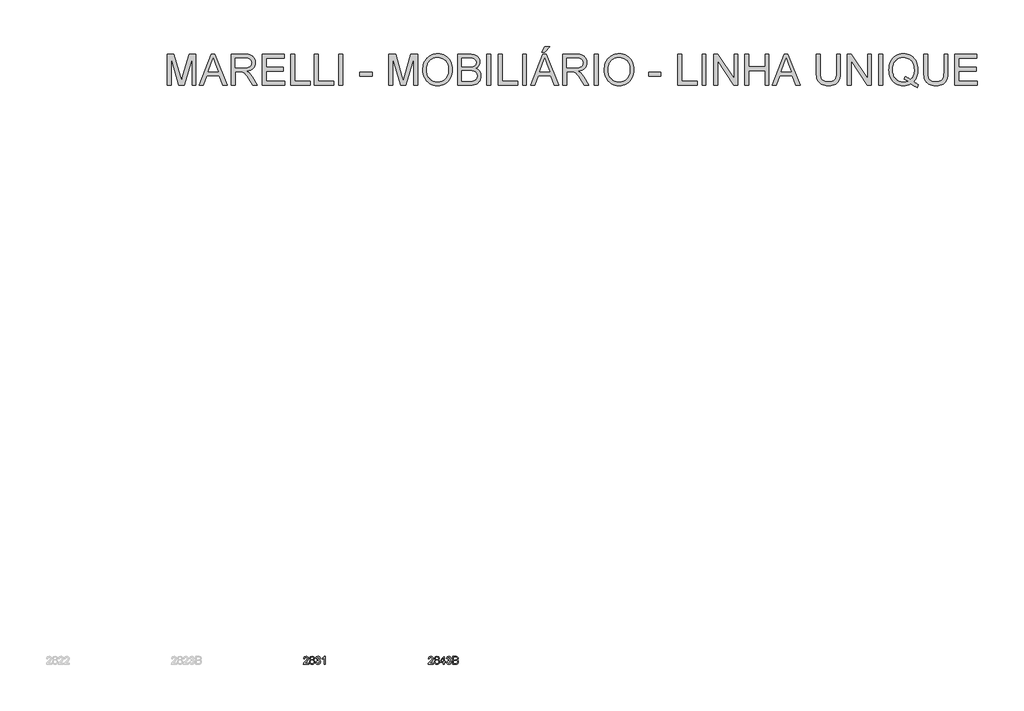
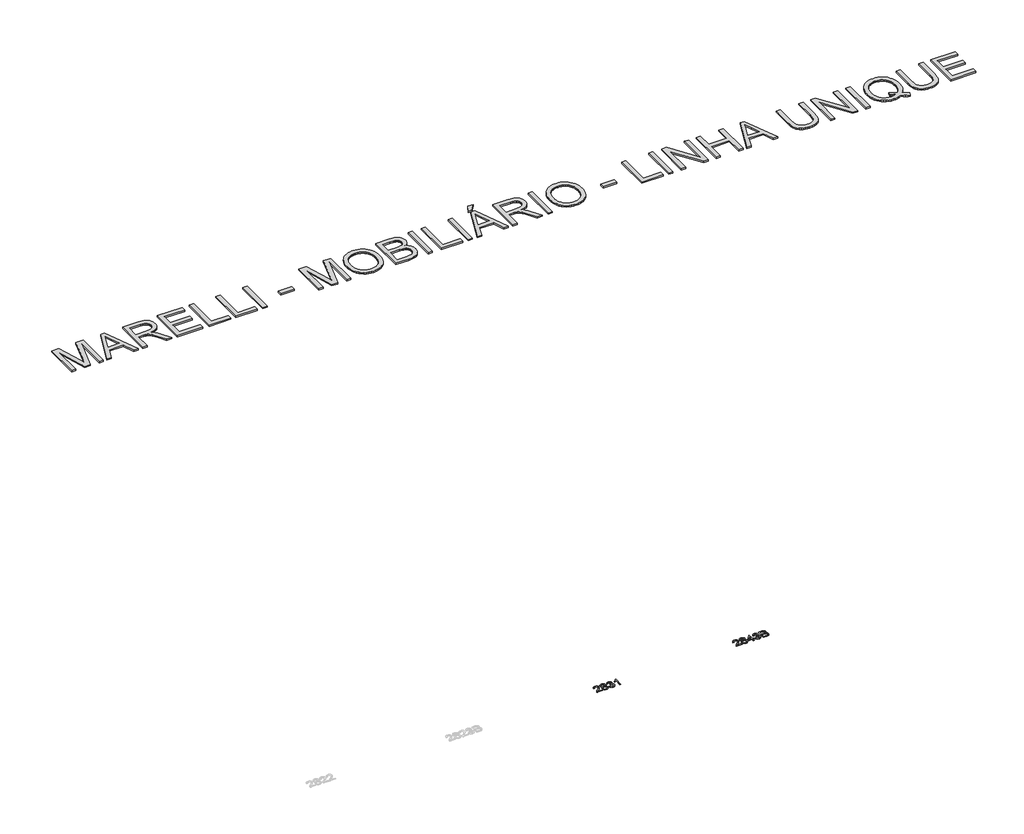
# One storey, part 4 of 4: 3 proxies.
"""IFC4 building model written with IfcOpenShell, lengths in millimetres."""

from ifc_helpers import new_model, si_unit, origin, origin_with_axes, place, context, project, spatial, polyline, outline, extrude, element, save

model = new_model("IFC4")

# Units and contexts
model_context = context("Model", 3, world=origin())
ifc_project = project(units=[si_unit("LENGTHUNIT", "METRE", prefix="MILLI")], contexts=[model_context])

# Site, building, storey
site = spatial("IfcSite", under=ifc_project)
building = spatial("IfcBuilding", under=site)
storey = spatial("IfcBuildingStorey", under=building, Name="Marelli - Linha UNIQUE - Planta Baixa", Elevation=0.0)

# Proxies
placement = place(None, origin())
element("IfcBuildingElementProxy", 1, Name="1200mm Arial", ObjectType="1200mm Arial", at=placement, inside=storey, context=model_context, shape_type="SweptSolid", body=[
    extrude(outline(polyline([(7655.3865986, 28269.4336799), (7655.3865986, 29474.9094017), (7914.6698288, 29474.9094017), (8161.2979184, 28625.2491457), (8211.0355642, 28447.7828712), (8264.8934883, 28639.9644255), (8507.4012995, 29474.9094017), (8766.6845297, 29474.9094017), (8766.6845297, 28269.4336799), (8616.0000645, 28269.4336799), (8616.0000645, 29324.2249365), (8313.159606, 28269.4336799), (8108.9115223, 28269.4336799), (7806.0710639, 29324.2249365), (7806.0710639, 28269.4336799), (7655.3865986, 28269.4336799)])), origin_with_axes(), (0.0, 0.0, 1.0), 50.0),
    extrude(outline(polyline([(8889.9985745, 28269.4336799), (9371.1882241, 29474.9094017), (9499.5054641, 29474.9094017), (9980.6951138, 28269.4336799), (9821.4757862, 28269.4336799), (9683.4464617, 28646.144843), (9186.952921, 28646.144843), (9049.217902, 28269.4336799), (8889.9985745, 28269.4336799)]), holes=[polyline([(9242.282373, 28796.8293082), (9628.4113152, 28796.8293082), (9519.8125502, 29093.1950435), (9435.3468441, 29324.2249365), (9360.2989171, 29119.093936), (9242.282373, 28796.8293082)])]), origin_with_axes(), (0.0, 0.0, 1.0), 50.0),
    extrude(outline(polyline([(10141.6802748, 28269.4336799), (10141.6802748, 29474.9094017), (10661.129652, 29474.9094017), (10735.6901354, 29472.8768537), (10800.7408692, 29466.7792096), (10856.2818534, 29456.6164695), (10902.3130881, 29442.3886334), (10941.5109147, 29423.0012522), (10976.5516747, 29397.3598771), (11007.4353682, 29365.4645082), (11034.1619951, 29327.3151453), (11055.7290771, 29284.9627306), (11071.1341357, 29240.4582062), (11080.3771708, 29193.8015722), (11083.4581825, 29144.9928285), (11078.3538198, 29083.0782887), (11063.0407318, 29026.2405204), (11037.5189184, 28974.4795237), (11001.7883796, 28927.7952985), (10979.979875, 28906.7294558), (10955.3892629, 28887.6777669), (10897.8617159, 28855.616851), (10829.2057386, 28831.6125509), (10749.4213309, 28815.6648664), (10799.0854002, 28783.2176744), (10835.0642594, 28751.2119408), (10896.7948581, 28678.0034238), (10957.2010818, 28596.1128916), (11158.2118039, 28269.4336799), (10983.0999742, 28269.4336799), (10826.2350915, 28519.2991311), (10763.4744231, 28614.6541442), (10712.927437, 28684.6988761), (10670.8049485, 28732.9282057), (10633.3177732, 28762.8370119), (10597.8171607, 28780.384983), (10561.6543605, 28791.5318075), (10526.4112654, 28795.504933), (10474.2455985, 28796.8293082), (10292.3647401, 28796.8293082), (10292.3647401, 28269.4336799), (10141.6802748, 28269.4336799)]), holes=[polyline([(10292.3647401, 28947.5137734), (10629.6389533, 28947.5137734), (10726.5022826, 28952.8480624), (10766.7945581, 28959.5159235), (10801.6605742, 28968.8509292), (10831.8820801, 28981.1197937), (10858.2408251, 28996.5892316), (10880.7368091, 29015.2592429), (10899.3700321, 29037.1298275), (10913.9841444, 29061.1249306), (10924.422796, 29086.1684974), (10930.685987, 29112.2605279), (10932.7737173, 29139.4010221), (10928.7913947, 29177.9366611), (10916.8444269, 29212.9038448), (10896.9328139, 29244.3025731), (10869.0565557, 29272.132846), (10832.5718588, 29294.9231356), (10786.8349298, 29311.2019139), (10731.8457686, 29320.9691808), (10667.6043752, 29324.2249365), (10292.3647401, 29324.2249365), (10292.3647401, 28947.5137734)])]), origin_with_axes(), (0.0, 0.0, 1.0), 50.0),
    extrude(outline(polyline([(11347.1559966, 28269.4336799), (11347.1559966, 29474.9094017), (12213.5916717, 29474.9094017), (12213.5916717, 29324.2249365), (11497.8404619, 29324.2249365), (11497.8404619, 28966.3493316), (12175.9205554, 28966.3493316), (12175.9205554, 28815.6648664), (11497.8404619, 28815.6648664), (11497.8404619, 28420.1181452), (12232.4272298, 28420.1181452), (12232.4272298, 28269.4336799), (11347.1559966, 28269.4336799)])), origin_with_axes(), (0.0, 0.0, 1.0), 50.0),
    extrude(outline(polyline([(12458.4539277, 28269.4336799), (12458.4539277, 29474.9094017), (12609.1383929, 29474.9094017), (12609.1383929, 28420.1181452), (13211.8762538, 28420.1181452), (13211.8762538, 28269.4336799), (12458.4539277, 28269.4336799)])), origin_with_axes(), (0.0, 0.0, 1.0), 50.0),
    extrude(outline(polyline([(13381.3962772, 28269.4336799), (13381.3962772, 29474.9094017), (13532.0807424, 29474.9094017), (13532.0807424, 28420.1181452), (14134.8186033, 28420.1181452), (14134.8186033, 28269.4336799), (13381.3962772, 28269.4336799)])), origin_with_axes(), (0.0, 0.0, 1.0), 50.0),
    extrude(outline(polyline([(14323.1741848, 28269.4336799), (14323.1741848, 29474.9094017), (14473.8586501, 29474.9094017), (14473.8586501, 28269.4336799), (14323.1741848, 28269.4336799)])), origin_with_axes(), (0.0, 0.0, 1.0), 50.0),
    extrude(outline(polyline([(15151.9387436, 28627.3092848), (15151.9387436, 28777.9937501), (15622.8276974, 28777.9937501), (15622.8276974, 28627.3092848), (15151.9387436, 28627.3092848)])), origin_with_axes(), (0.0, 0.0, 1.0), 50.0),
    extrude(outline(polyline([(16282.0722327, 28269.4336799), (16282.0722327, 29474.9094017), (16541.3554629, 29474.9094017), (16787.9835525, 28625.2491457), (16837.7211983, 28447.7828712), (16891.5791224, 28639.9644255), (17134.0869336, 29474.9094017), (17393.3701638, 29474.9094017), (17393.3701638, 28269.4336799), (17242.6856985, 28269.4336799), (17242.6856985, 29324.2249365), (16939.8452401, 28269.4336799), (16735.5971564, 28269.4336799), (16432.756698, 29324.2249365), (16432.756698, 28269.4336799), (16282.0722327, 28269.4336799)])), origin_with_axes(), (0.0, 0.0, 1.0), 50.0),
    extrude(outline(polyline([(17600.5613035, 28856.2790386), (17603.0720981, 28929.0047106), (17610.6044819, 28997.6744835), (17623.158455, 29062.2883574), (17640.7340173, 29122.8463323), (17663.3311689, 29179.3484083), (17690.9499097, 29231.7945852), (17723.5902397, 29280.1848632), (17761.2521589, 29324.5192421), (17802.8826052, 29364.1815197), (17847.4285163, 29398.5554936), (17894.8898922, 29427.6411639), (17945.2667329, 29451.4385304), (17998.5590385, 29469.9475933), (18054.7668088, 29483.1683525), (18113.890044, 29491.100808), (18175.9287439, 29493.7449599), (18257.0283297, 29488.7785529), (18334.0444254, 29473.8793321), (18406.977031, 29449.0472975), (18475.8261464, 29414.2824489), (18538.6603912, 29370.6332502), (18593.5483848, 29319.148165), (18640.4901274, 29259.8271932), (18679.4856189, 29192.670335), (18710.1301891, 29119.2043006), (18732.0191678, 29040.9558002), (18745.1525551, 28957.9248339), (18749.5303508, 28870.1114017), (18744.9226288, 28781.1391411), (18731.0994628, 28696.9861347), (18708.0608529, 28617.6523825), (18675.806799, 28543.1378843), (18635.1006562, 28475.410809), (18586.7057797, 28416.4393252), (18530.6221696, 28366.2234329), (18466.8498257, 28324.763132), (18397.8995428, 28292.31594), (18326.2821153, 28269.1393743), (18251.9975435, 28255.2334349), (18175.0458271, 28250.5981218), (18092.5298956, 28255.7208786), (18014.5021244, 28271.0891489), (17940.9625136, 28296.7029328), (17871.9110631, 28332.5622303), (17809.1503947, 28377.2782868), (17754.4831302, 28429.4623478), (17707.9092696, 28489.1144134), (17669.428813, 28556.2344834), (17639.2992775, 28628.1278223), (17617.7781808, 28702.0996945), (17604.8655228, 28778.1500999), (17600.5613035, 28856.2790386)]), holes=[polyline([(17751.2457687, 28854.8075107), (17753.1288646, 28803.4557827), (17758.7781525, 28754.9091549), (17768.1936323, 28709.1676273), (17781.3753041, 28666.2311999), (17798.3231678, 28626.0998728), (17819.0372233, 28588.7736458), (17843.5174709, 28554.2525191), (17871.7639103, 28522.5364926), (17902.8522382, 28494.1176085), (17935.8581509, 28469.4879089), (17970.7816486, 28448.6473939), (18007.6227311, 28431.5960634), (18046.3813986, 28418.3339175), (18087.0576509, 28408.8609561), (18129.6514882, 28403.1771793), (18174.1629103, 28401.282587), (18219.4882714, 28403.1955734), (18262.7580918, 28408.9345325), (18303.9723716, 28418.4994644), (18343.1311107, 28431.890369), (18380.2343092, 28449.1072464), (18415.281967, 28470.1500965), (18448.2740842, 28495.0189194), (18479.2106607, 28523.713715), (18507.2501666, 28555.9263822), (18531.5510716, 28591.3488198), (18552.1133759, 28629.9810278), (18568.9370794, 28671.8230063), (18582.0221821, 28716.8747551), (18591.368684, 28765.1362743), (18596.9765852, 28816.607564), (18598.8458856, 28871.288624), (18595.6453122, 28940.248104), (18586.0435921, 29004.6826355), (18570.0407253, 29064.5922184), (18547.6367118, 29119.9768528), (18519.079872, 29170.1099717), (18484.6185261, 29214.2650081), (18444.2526741, 29252.4419622), (18397.9823162, 29284.6408338), (18347.242192, 29310.1994354), (18293.4670414, 29328.4555794), (18236.6568643, 29339.4092659), (18176.8116607, 29343.0604947), (18134.0131891, 29341.3015589), (18092.7322307, 29336.0247515), (18052.9687856, 29327.2300726), (18014.7228536, 29314.917522), (17977.9944349, 29299.0870999), (17942.7835295, 29279.7388062), (17909.0901372, 29256.872641), (17876.9142582, 29230.4886041), (17847.460706, 29199.993486), (17821.9342941, 29164.7940768), (17800.3350224, 29124.8903767), (17782.6628911, 29080.2823855), (17768.9179, 29030.9701033), (17759.1000493, 28976.9535301), (17753.2093388, 28918.2326659), (17751.2457687, 28854.8075107)])]), origin_with_axes(), (0.0, 0.0, 1.0), 50.0),
    extrude(outline(polyline([(18956.7214905, 28269.4336799), (18956.7214905, 29474.9094017), (19416.7211372, 29474.9094017), (19483.4457341, 29472.6929127), (19543.2357554, 29466.0434456), (19596.091201, 29454.9610005), (19642.0120711, 29439.4455774), (19682.1663909, 29419.3316293), (19717.7221857, 29394.4536094), (19748.6794556, 29364.8115176), (19775.0382005, 29330.405354), (19796.0902477, 29293.1756961), (19811.1274243, 29255.0631214), (19820.1497302, 29216.0676299), (19823.1571655, 29176.1892216), (19820.6279768, 29139.3550369), (19813.0404106, 29103.606104), (19800.3944671, 29068.942423), (19782.690146, 29035.3639939), (19759.8722653, 29003.9192804), (19731.8856425, 28975.6567461), (19698.7302777, 28950.5763911), (19660.4061709, 28928.6782153), (19705.8855825, 28909.2908341), (19745.7915819, 28884.0909175), (19780.1241691, 28853.0784653), (19808.8833441, 28816.2534776), (19831.6092544, 28774.7379944), (19847.8420474, 28729.6540559), (19857.5817232, 28681.001662), (19860.8282818, 28628.7808128), (19858.6117928, 28585.9869397), (19851.9623257, 28544.7197769), (19840.8798806, 28504.9793244), (19825.3644575, 28466.7655821), (19806.5748846, 28431.4673047), (19785.6699902, 28400.4732466), (19762.6497744, 28373.7834079), (19737.514237, 28351.3977885), (19709.6747671, 28332.3966834), (19678.5427532, 28315.8603877), (19644.1181955, 28301.7889014), (19606.401094, 28290.1822245), (19564.8028374, 28281.1047362), (19518.7348145, 28274.6208161), (19413.1894701, 28269.4336799), (18956.7214905, 28269.4336799)]), holes=[polyline([(19107.4059557, 28985.1848897), (19382.5816881, 28985.1848897), (19478.819618, 28988.4222513), (19543.2725436, 28998.134336), (19573.3744878, 29007.9108), (19599.5217006, 29020.4647731), (19621.714182, 29035.7962552), (19639.9519319, 29053.9052464), (19654.1797681, 29074.662988), (19664.3425082, 29097.9407213), (19670.4401523, 29123.7384462), (19672.4727003, 29152.0561628), (19670.578108, 29179.1690658), (19664.8943312, 29204.5897117), (19655.4213698, 29228.3181004), (19642.1592239, 29250.3542319), (19625.3654108, 29269.8795688), (19605.297448, 29286.0755736), (19581.9553354, 29298.9422464), (19555.339073, 29308.4795871), (19522.0457525, 29315.3681775), (19478.6724652, 29320.2885992), (19361.6859908, 29324.2249365), (19107.4059557, 29324.2249365), (19107.4059557, 28985.1848897)]), polyline([(19107.4059557, 28420.1181452), (19416.4268316, 28420.1181452), (19484.1171188, 28421.5896731), (19528.2629582, 28426.0042571), (19580.1711077, 28439.0640679), (19622.8822073, 28458.819331), (19657.6102677, 28487.1094565), (19685.5692993, 28525.7738542), (19696.3206506, 28548.5641438), (19704.0001873, 28573.0834788), (19708.6079093, 28599.3318591), (19710.1438166, 28627.3092848), (19708.3411948, 28659.9036296), (19702.9333295, 28690.2906824), (19693.9202206, 28718.4704432), (19681.3018682, 28744.4429121), (19664.6460108, 28767.463128), (19643.5203873, 28786.7861297), (19617.9249975, 28802.4119175), (19587.8598414, 28814.3404912), (19552.0005439, 28823.160462), (19509.0227298, 28829.4604412), (19401.7115518, 28834.5004245), (19107.4059557, 28834.5004245), (19107.4059557, 28420.1181452)])]), origin_with_axes(), (0.0, 0.0, 1.0), 50.0),
    extrude(outline(polyline([(20086.8549797, 28269.4336799), (20086.8549797, 29474.9094017), (20237.5394449, 29474.9094017), (20237.5394449, 28269.4336799), (20086.8549797, 28269.4336799)])), origin_with_axes(), (0.0, 0.0, 1.0), 50.0),
    extrude(outline(polyline([(20538.9083753, 28269.4336799), (20538.9083753, 29474.9094017), (20689.5928406, 29474.9094017), (20689.5928406, 28420.1181452), (21292.3307015, 28420.1181452), (21292.3307015, 28269.4336799), (20538.9083753, 28269.4336799)])), origin_with_axes(), (0.0, 0.0, 1.0), 50.0),
    extrude(outline(polyline([(21480.686283, 28269.4336799), (21480.686283, 29474.9094017), (21631.3707482, 29474.9094017), (21631.3707482, 28269.4336799), (21480.686283, 28269.4336799)])), origin_with_axes(), (0.0, 0.0, 1.0), 50.0),
    extrude(outline(polyline([(21792.3559093, 28269.4336799), (22273.545559, 29474.9094017), (22401.8627989, 29474.9094017), (22883.0524486, 28269.4336799), (22723.8331211, 28269.4336799), (22585.8037965, 28646.144843), (22089.3102558, 28646.144843), (21951.5752368, 28269.4336799), (21792.3559093, 28269.4336799)]), holes=[polyline([(22144.6397079, 28796.8293082), (22530.76865, 28796.8293082), (22422.169885, 29093.1950435), (22337.7041789, 29324.2249365), (22262.6562519, 29119.093936), (22144.6397079, 28796.8293082)])]), origin_with_axes(), (0.0, 0.0, 1.0), 50.0),
    extrude(outline(polyline([(22234.1086091, 29550.2516343), (22347.121958, 29776.2783322), (22535.4775396, 29776.2783322), (22347.121958, 29550.2516343), (22234.1086091, 29550.2516343)])), origin_with_axes(), (0.0, 0.0, 1.0), 50.0),
    extrude(outline(polyline([(23044.0376097, 28269.4336799), (23044.0376097, 29474.9094017), (23563.4869869, 29474.9094017), (23638.0474703, 29472.8768537), (23703.098204, 29466.7792096), (23758.6391883, 29456.6164695), (23804.6704229, 29442.3886334), (23843.8682495, 29423.0012522), (23878.9090095, 29397.3598771), (23909.792703, 29365.4645082), (23936.51933, 29327.3151453), (23958.086412, 29284.9627306), (23973.4914705, 29240.4582062), (23982.7345056, 29193.8015722), (23985.8155173, 29144.9928285), (23980.7111547, 29083.0782887), (23965.3980666, 29026.2405204), (23939.8762532, 28974.4795237), (23904.1457144, 28927.7952985), (23882.3372099, 28906.7294558), (23857.7465978, 28887.6777669), (23800.2190508, 28855.616851), (23731.5630734, 28831.6125509), (23651.7786657, 28815.6648664), (23701.4427351, 28783.2176744), (23737.4215942, 28751.2119408), (23799.152193, 28678.0034238), (23859.5584166, 28596.1128916), (24060.5691388, 28269.4336799), (23885.4573091, 28269.4336799), (23728.5924263, 28519.2991311), (23665.8317579, 28614.6541442), (23615.2847718, 28684.6988761), (23573.1622834, 28732.9282057), (23535.675108, 28762.8370119), (23500.1744955, 28780.384983), (23464.0116954, 28791.5318075), (23428.7686002, 28795.504933), (23376.6029333, 28796.8293082), (23194.7220749, 28796.8293082), (23194.7220749, 28269.4336799), (23044.0376097, 28269.4336799)]), holes=[polyline([(23194.7220749, 28947.5137734), (23531.9962881, 28947.5137734), (23628.8596174, 28952.8480624), (23669.1518929, 28959.5159235), (23704.017909, 28968.8509292), (23734.2394149, 28981.1197937), (23760.5981599, 28996.5892316), (23783.0941439, 29015.2592429), (23801.727367, 29037.1298275), (23816.3414792, 29061.1249306), (23826.7801308, 29086.1684974), (23833.0433218, 29112.2605279), (23835.1310521, 29139.4010221), (23831.1487295, 29177.9366611), (23819.2017617, 29212.9038448), (23799.2901487, 29244.3025731), (23771.4138906, 29272.132846), (23734.9291937, 29294.9231356), (23689.1922646, 29311.2019139), (23634.2031034, 29320.9691808), (23569.96171, 29324.2249365), (23194.7220749, 29324.2249365), (23194.7220749, 28947.5137734)])]), origin_with_axes(), (0.0, 0.0, 1.0), 50.0),
    extrude(outline(polyline([(24268.3488896, 28269.4336799), (24268.3488896, 29474.9094017), (24419.0333549, 29474.9094017), (24419.0333549, 28269.4336799), (24268.3488896, 28269.4336799)])), origin_with_axes(), (0.0, 0.0, 1.0), 50.0),
    extrude(outline(polyline([(24663.8956109, 28856.2790386), (24666.4064055, 28929.0047106), (24673.9387893, 28997.6744835), (24686.4927624, 29062.2883574), (24704.0683247, 29122.8463323), (24726.6654763, 29179.3484083), (24754.2842171, 29231.7945852), (24786.9245471, 29280.1848632), (24824.5864663, 29324.5192421), (24866.2169126, 29364.1815197), (24910.7628237, 29398.5554936), (24958.2241996, 29427.6411639), (25008.6010403, 29451.4385304), (25061.8933459, 29469.9475933), (25118.1011162, 29483.1683525), (25177.2243513, 29491.100808), (25239.2630513, 29493.7449599), (25320.3626371, 29488.7785529), (25397.3787328, 29473.8793321), (25470.3113384, 29449.0472975), (25539.1604538, 29414.2824489), (25601.9946986, 29370.6332502), (25656.8826922, 29319.148165), (25703.8244348, 29259.8271932), (25742.8199263, 29192.670335), (25773.4644965, 29119.2043006), (25795.3534752, 29040.9558002), (25808.4868624, 28957.9248339), (25812.8646582, 28870.1114017), (25808.2569362, 28781.1391411), (25794.4337702, 28696.9861347), (25771.3951603, 28617.6523825), (25739.1411064, 28543.1378843), (25698.4349636, 28475.410809), (25650.0400871, 28416.4393252), (25593.956477, 28366.2234329), (25530.1841331, 28324.763132), (25461.2338501, 28292.31594), (25389.6164227, 28269.1393743), (25315.3318509, 28255.2334349), (25238.3801345, 28250.5981218), (25155.864203, 28255.7208786), (25077.8364318, 28271.0891489), (25004.296821, 28296.7029328), (24935.2453705, 28332.5622303), (24872.4847021, 28377.2782868), (24817.8174376, 28429.4623478), (24771.243577, 28489.1144134), (24732.7631203, 28556.2344834), (24702.6335849, 28628.1278223), (24681.1124882, 28702.0996945), (24668.1998302, 28778.1500999), (24663.8956109, 28856.2790386)]), holes=[polyline([(24814.5800761, 28854.8075107), (24816.463172, 28803.4557827), (24822.1124599, 28754.9091549), (24831.5279397, 28709.1676273), (24844.7096115, 28666.2311999), (24861.6574751, 28626.0998728), (24882.3715307, 28588.7736458), (24906.8517783, 28554.2525191), (24935.0982177, 28522.5364926), (24966.1865456, 28494.1176085), (24999.1924583, 28469.4879089), (25034.115956, 28448.6473939), (25070.9570385, 28431.5960634), (25109.715706, 28418.3339175), (25150.3919583, 28408.8609561), (25192.9857956, 28403.1771793), (25237.4972177, 28401.282587), (25282.8225788, 28403.1955734), (25326.0923992, 28408.9345325), (25367.306679, 28418.4994644), (25406.4654181, 28431.890369), (25443.5686166, 28449.1072464), (25478.6162744, 28470.1500965), (25511.6083916, 28495.0189194), (25542.5449681, 28523.713715), (25570.584474, 28555.9263822), (25594.885379, 28591.3488198), (25615.4476833, 28629.9810278), (25632.2713868, 28671.8230063), (25645.3564895, 28716.8747551), (25654.7029914, 28765.1362743), (25660.3108926, 28816.607564), (25662.180193, 28871.288624), (25658.9796196, 28940.248104), (25649.3778995, 29004.6826355), (25633.3750327, 29064.5922184), (25610.9710192, 29119.9768528), (25582.4141794, 29170.1099717), (25547.9528335, 29214.2650081), (25507.5869815, 29252.4419622), (25461.3166236, 29284.6408338), (25410.5764994, 29310.1994354), (25356.8013488, 29328.4555794), (25299.9911717, 29339.4092659), (25240.1459681, 29343.0604947), (25197.3474965, 29341.3015589), (25156.0665381, 29336.0247515), (25116.3030929, 29327.2300726), (25078.057161, 29314.917522), (25041.3287423, 29299.0870999), (25006.1178369, 29279.7388062), (24972.4244446, 29256.872641), (24940.2485656, 29230.4886041), (24910.7950134, 29199.993486), (24885.2686014, 29164.7940768), (24863.6693298, 29124.8903767), (24845.9971985, 29080.2823855), (24832.2522074, 29030.9701033), (24822.4343567, 28976.9535301), (24816.5436462, 28918.2326659), (24814.5800761, 28854.8075107)])]), origin_with_axes(), (0.0, 0.0, 1.0), 50.0),
    extrude(outline(polyline([(26396.7669609, 28627.3092848), (26396.7669609, 28777.9937501), (26867.6559148, 28777.9937501), (26867.6559148, 28627.3092848), (26396.7669609, 28627.3092848)])), origin_with_axes(), (0.0, 0.0, 1.0), 50.0),
    extrude(outline(polyline([(27526.9004501, 28269.4336799), (27526.9004501, 29474.9094017), (27677.5849153, 29474.9094017), (27677.5849153, 28420.1181452), (28280.3227762, 28420.1181452), (28280.3227762, 28269.4336799), (27526.9004501, 28269.4336799)])), origin_with_axes(), (0.0, 0.0, 1.0), 50.0),
    extrude(outline(polyline([(28468.6783578, 28269.4336799), (28468.6783578, 29474.9094017), (28619.362823, 29474.9094017), (28619.362823, 28269.4336799), (28468.6783578, 28269.4336799)])), origin_with_axes(), (0.0, 0.0, 1.0), 50.0),
    extrude(outline(polyline([(28920.7317534, 28269.4336799), (28920.7317534, 29474.9094017), (29082.0112201, 29474.9094017), (29711.8251959, 28519.8877422), (29711.8251959, 29474.9094017), (29862.5096611, 29474.9094017), (29862.5096611, 28269.4336799), (29701.2301944, 28269.4336799), (29071.4162187, 29224.749645), (29071.4162187, 28269.4336799), (28920.7317534, 28269.4336799)])), origin_with_axes(), (0.0, 0.0, 1.0), 50.0),
    extrude(outline(polyline([(30126.2074752, 28269.4336799), (30126.2074752, 29474.9094017), (30276.8919405, 29474.9094017), (30276.8919405, 28985.1848897), (30917.3009177, 28985.1848897), (30917.3009177, 29474.9094017), (31067.9853829, 29474.9094017), (31067.9853829, 28269.4336799), (30917.3009177, 28269.4336799), (30917.3009177, 28834.5004245), (30276.8919405, 28834.5004245), (30276.8919405, 28269.4336799), (30126.2074752, 28269.4336799)])), origin_with_axes(), (0.0, 0.0, 1.0), 50.0),
    extrude(outline(polyline([(31191.2994277, 28269.4336799), (31672.4890774, 29474.9094017), (31800.8063173, 29474.9094017), (32281.995967, 28269.4336799), (32122.7766395, 28269.4336799), (31984.7473149, 28646.144843), (31488.2537742, 28646.144843), (31350.5187552, 28269.4336799), (31191.2994277, 28269.4336799)]), holes=[polyline([(31543.5832263, 28796.8293082), (31929.7121684, 28796.8293082), (31821.1134034, 29093.1950435), (31736.6476973, 29324.2249365), (31661.5997703, 29119.093936), (31543.5832263, 28796.8293082)])]), origin_with_axes(), (0.0, 0.0, 1.0), 50.0),
    extrude(outline(polyline([(33704.9635243, 29474.9094017), (33855.6479895, 29474.9094017), (33855.6479895, 28779.465278), (33853.0912097, 28693.3533), (33845.4208701, 28616.6039188), (33832.6369707, 28549.2171343), (33814.7395117, 28491.1929466), (33790.1833885, 28440.3332608), (33757.4234968, 28394.4399819), (33716.4598367, 28353.5131099), (33667.292408, 28317.5526449), (33609.8660286, 28288.260041), (33544.125516, 28267.3367526), (33470.0708704, 28254.7827795), (33387.7020917, 28250.5981218), (33307.365861, 28254.2401535), (33234.6999699, 28265.1662488), (33169.7044184, 28283.3764075), (33112.3792065, 28308.8706298), (33062.7151371, 28341.2718365), (33020.7030133, 28380.2029487), (32986.3428349, 28425.6639662), (32959.6346021, 28477.6548892), (32939.6126245, 28537.9599453), (32925.3112119, 28608.3633621), (32916.7303644, 28688.8651397), (32913.8700819, 28779.465278), (32913.8700819, 29474.9094017), (33064.5545471, 29474.9094017), (33064.5545471, 28784.7627788), (33066.4123512, 28711.9129467), (33071.9857634, 28649.3454164), (33081.2747838, 28597.0601878), (33094.2794123, 28555.057261), (33111.8089894, 28520.3016095), (33134.6728554, 28489.7582068), (33162.8710103, 28463.427053), (33196.4034542, 28441.3081481), (33234.6263935, 28423.7969651), (33276.8960347, 28411.2889773), (33323.2123779, 28403.7841846), (33373.5754231, 28401.282587), (33456.6247835, 28406.2305998), (33526.8350623, 28421.0746383), (33557.125546, 28432.2076672), (33584.2062594, 28445.8147025), (33608.0772024, 28461.8957442), (33628.7383749, 28480.4507924), (33646.6036443, 28502.5237121), (33662.0868778, 28529.1583685), (33675.1880753, 28560.3547617), (33685.907237, 28596.1128916), (33700.1994525, 28681.3143617), (33704.9635243, 28784.7627788), (33704.9635243, 29474.9094017)])), origin_with_axes(), (0.0, 0.0, 1.0), 50.0),
    extrude(outline(polyline([(34119.3458037, 28269.4336799), (34119.3458037, 29474.9094017), (34280.6252704, 29474.9094017), (34910.4392461, 28519.8877422), (34910.4392461, 29474.9094017), (35061.1237113, 29474.9094017), (35061.1237113, 28269.4336799), (34899.8442447, 28269.4336799), (34270.0302689, 29224.749645), (34270.0302689, 28269.4336799), (34119.3458037, 28269.4336799)])), origin_with_axes(), (0.0, 0.0, 1.0), 50.0),
    extrude(outline(polyline([(35343.6570836, 28269.4336799), (35343.6570836, 29474.9094017), (35494.3415489, 29474.9094017), (35494.3415489, 28269.4336799), (35343.6570836, 28269.4336799)])), origin_with_axes(), (0.0, 0.0, 1.0), 50.0),
    extrude(outline(polyline([(36701.2887986, 28413.9377276), (36750.9344739, 28373.8569843), (36798.6303746, 28339.5519882), (36844.3765007, 28311.0227395), (36888.1728522, 28288.2692381), (36847.5586799, 28177.9046395), (36785.3682286, 28203.4908323), (36723.2881419, 28235.51496), (36661.3184199, 28273.9770226), (36599.4590624, 28318.8770201), (36531.4928638, 28289.0050021), (36460.0317862, 28267.6678464), (36385.0758297, 28254.8655529), (36306.6249942, 28250.5981218), (36227.6959121, 28255.5185435), (36152.4824382, 28270.2798085), (36080.9845725, 28294.8819169), (36013.2023149, 28329.3248687), (35951.0762429, 28372.6797619), (35896.5469342, 28424.0176943), (35849.6143886, 28483.338666), (35810.2786063, 28550.642677), (35779.1833807, 28624.1914849), (35756.9725052, 28702.2468473), (35743.6459799, 28784.808764), (35739.2038048, 28871.8772352), (35743.6367829, 28958.7617654), (35756.935717, 29041.654776), (35779.1006072, 29120.5562669), (35810.1314535, 29195.4662382), (35849.3476742, 29264.030245), (35896.0686876, 29323.8938427), (35950.2944937, 29375.0570312), (36012.0250925, 29417.5198105), (36079.4578622, 29450.8683133), (36150.790181, 29474.6886725), (36226.0220491, 29488.980888), (36305.1534662, 29493.7449599), (36384.956268, 29488.8705234), (36460.730762, 29474.2472141), (36532.4769481, 29449.875032), (36600.1948264, 29415.7539769), (36661.9898045, 29372.8589363), (36715.9672902, 29322.1647973), (36762.1272836, 29263.6715601), (36800.4697845, 29197.3792246), (36830.5993199, 29124.9432597), (36852.1204167, 29048.0191345), (36865.0330747, 28966.606849), (36869.337294, 28880.7064031), (36866.7253319, 28809.2821138), (36858.8894454, 28741.5734325), (36845.8296345, 28677.5803595), (36827.5458994, 28617.3028946), (36803.9830576, 28560.777826), (36775.0859269, 28508.041942), (36740.8545072, 28459.0952425), (36701.2887986, 28413.9377276)]), holes=[polyline([(36348.1220833, 28614.3598386), (36414.5247834, 28592.7467714), (36474.8206424, 28566.4616028), (36529.0096603, 28535.5043329), (36577.0918371, 28499.8749617), (36610.2701945, 28532.8739767), (36639.0247709, 28569.7725408), (36663.3555664, 28610.5706541), (36683.2625809, 28655.2683165), (36698.7458143, 28703.865528), (36709.8052668, 28756.3622887), (36716.4409383, 28812.7585986), (36718.6528288, 28873.0544576), (36715.5258318, 28941.6000704), (36706.144841, 29005.6759169), (36690.5098562, 29065.2819971), (36668.6208775, 29120.4183112), (36640.7078311, 29170.358292), (36607.0006433, 29214.3753727), (36567.499314, 29252.4695533), (36522.2038434, 29284.6408338), (36472.5489711, 29310.1994354), (36419.9694369, 29328.4555794), (36364.4652409, 29339.4092659), (36306.036383, 29343.0604947), (36262.1112728, 29341.2141869), (36220.0991489, 29335.6752636), (36180.0000115, 29326.4437248), (36141.8138604, 29313.5195704), (36105.5406956, 29296.9028006), (36071.1805173, 29276.5934152), (36038.7333253, 29252.5914143), (36008.1991197, 29224.8967978), (35980.4700143, 29193.537157), (35956.438123, 29158.5400829), (35936.1034457, 29119.9055756), (35919.4659825, 29077.6336351), (35906.5257333, 29031.7242614), (35897.2826982, 28982.1774544), (35891.7368771, 28928.9932142), (35889.8882701, 28872.1715408), (35891.7161837, 28816.9501541), (35897.1999247, 28765.0351068), (35906.339493, 28716.4263989), (35919.1348887, 28671.1240305), (35935.5861117, 28629.1280015), (35955.693162, 28590.4383119), (35979.4560396, 28555.0549617), (36006.8747445, 28522.977951), (36037.1353379, 28494.4556001), (36069.4238808, 28469.7362293), (36103.7403731, 28448.8198386), (36140.084815, 28431.706428), (36178.4572063, 28418.3959976), (36218.8575472, 28408.8885473), (36261.2858376, 28403.1840771), (36305.7420774, 28401.282587), (36348.2140538, 28403.2139675), (36389.3984431, 28409.0081089), (36429.2952455, 28418.6650113), (36467.9044609, 28432.1846746), (36429.8470685, 28453.9081064), (36390.7228183, 28472.2838121), (36350.5317103, 28487.3117916), (36309.2737446, 28498.9920449), (36348.1220833, 28614.3598386)])]), origin_with_axes(), (0.0, 0.0, 1.0), 50.0),
    extrude(outline(polyline([(37886.4574343, 29474.9094017), (38037.1418995, 29474.9094017), (38037.1418995, 28779.465278), (38034.5851197, 28693.3533), (38026.9147801, 28616.6039188), (38014.1308807, 28549.2171343), (37996.2334217, 28491.1929466), (37971.6772985, 28440.3332608), (37938.9174068, 28394.4399819), (37897.9537466, 28353.5131099), (37848.786318, 28317.5526449), (37791.3599385, 28288.260041), (37725.619426, 28267.3367526), (37651.5647804, 28254.7827795), (37569.1960017, 28250.5981218), (37488.859771, 28254.2401535), (37416.1938799, 28265.1662488), (37351.1983284, 28283.3764075), (37293.8731165, 28308.8706298), (37244.2090471, 28341.2718365), (37202.1969233, 28380.2029487), (37167.8367449, 28425.6639662), (37141.1285121, 28477.6548892), (37121.1065345, 28537.9599453), (37106.8051219, 28608.3633621), (37098.2242744, 28688.8651397), (37095.3639919, 28779.465278), (37095.3639919, 29474.9094017), (37246.0484571, 29474.9094017), (37246.0484571, 28784.7627788), (37247.9062612, 28711.9129467), (37253.4796734, 28649.3454164), (37262.7686938, 28597.0601878), (37275.7733223, 28555.057261), (37293.3028994, 28520.3016095), (37316.1667654, 28489.7582068), (37344.3649203, 28463.427053), (37377.8973642, 28441.3081481), (37416.1203035, 28423.7969651), (37458.3899447, 28411.2889773), (37504.7062879, 28403.7841846), (37555.069333, 28401.282587), (37638.1186934, 28406.2305998), (37708.3289722, 28421.0746383), (37738.619456, 28432.2076672), (37765.7001694, 28445.8147025), (37789.5711123, 28461.8957442), (37810.2322849, 28480.4507924), (37828.0975543, 28502.5237121), (37843.5807878, 28529.1583685), (37856.6819853, 28560.3547617), (37867.4011469, 28596.1128916), (37881.6933625, 28681.3143617), (37886.4574343, 28784.7627788), (37886.4574343, 29474.9094017)])), origin_with_axes(), (0.0, 0.0, 1.0), 50.0),
    extrude(outline(polyline([(38300.8397137, 28269.4336799), (38300.8397137, 29474.9094017), (39167.2753887, 29474.9094017), (39167.2753887, 29324.2249365), (38451.5241789, 29324.2249365), (38451.5241789, 28966.3493316), (39129.6042724, 28966.3493316), (39129.6042724, 28815.6648664), (38451.5241789, 28815.6648664), (38451.5241789, 28420.1181452), (39186.1109469, 28420.1181452), (39186.1109469, 28269.4336799), (38300.8397137, 28269.4336799)])), origin_with_axes(), (0.0, 0.0, 1.0), 50.0),
])
element("IfcBuildingElementProxy", 2, Name="300mm Arial", ObjectType="300mm Arial", at=placement, inside=storey, context=model_context, shape_type="SweptSolid", body=[
    extrude(outline(polyline([(13152.3420691, 5757.1047962), (13152.3420691, 5719.4336799), (12954.5687085, 5719.4336799), (12958.6154104, 5745.4061488), (12967.9044308, 5765.7040379), (12981.4976705, 5785.3949217), (13001.1609632, 5806.0055104), (13028.6601423, 5829.0625145), (13069.3111028, 5865.1701323), (13093.701679, 5891.8231829), (13105.8969672, 5913.4546442), (13109.9620632, 5934.4974943), (13106.1268934, 5953.3606436), (13094.621384, 5969.0416137), (13076.9354571, 5979.609024), (13054.5590348, 5983.1314941), (13031.0605723, 5979.6917974), (13012.8044283, 5969.3727075), (13001.0230074, 5952.9835646), (12996.9487143, 5931.3337092), (12959.277598, 5936.0425987), (12968.4102685, 5972.4813103), (12976.9566271, 5987.0172476), (12988.1563346, 5999.0975727), (13001.7518736, 6008.5935267), (13017.4857267, 6015.376351), (13055.3683751, 6020.8026104), (13075.5581989, 6019.2942942), (13093.5269351, 6014.7693457), (13109.2745837, 6007.2277648), (13122.8011449, 5996.6695515), (13133.66516, 5983.8764551), (13141.4251709, 5969.6302249), (13146.0811774, 5953.9308607), (13147.6331795, 5936.7783627), (13145.9593165, 5918.761342), (13140.9377272, 5901.057021), (13132.0257859, 5883.0491973), (13118.6808665, 5864.1216686), (13097.4080901, 5841.5245171), (13064.7125778, 5812.5078247), (13021.3760788, 5776.2714482), (13004.3799306, 5757.1047962), (13152.3420691, 5757.1047962)])), origin_with_axes(), (0.0, 0.0, 1.0), 10.0),
    extrude(outline(polyline([(13244.9011791, 5885.4220362), (13224.7320487, 5895.35485), (13210.5777889, 5908.819331), (13202.2176706, 5925.5395677), (13199.4309645, 5945.2396486), (13200.9484777, 5960.6033204), (13205.5010174, 5974.6886023), (13213.0885835, 5987.4954942), (13223.7111761, 5999.0239963), (13236.8583589, 6008.5521399), (13252.0196957, 6015.3579569), (13288.3848309, 6020.8026104), (13324.9706953, 6015.2291982), (13340.2975789, 6008.2624329), (13353.6470968, 5998.5089615), (13364.4628275, 5986.7551317), (13372.1883494, 5973.7872914), (13376.8236625, 5959.6054405), (13378.3687669, 5944.209579), (13375.618849, 5925.1440946), (13367.3690953, 5908.7089665), (13353.5275352, 5895.3272589), (13334.0021983, 5885.4220362), (13357.187961, 5873.4750684), (13374.0645476, 5855.8811119), (13384.3560464, 5833.4862955), (13387.786546, 5807.1367476), (13386.0850918, 5788.3471747), (13380.9807291, 5771.1211003), (13372.4734579, 5755.4585243), (13360.5632783, 5741.3594468), (13345.8755897, 5729.7067846), (13329.0357914, 5721.3834545), (13310.0438834, 5716.3894564), (13288.8998657, 5714.7247904), (13267.755848, 5716.3963542), (13248.76394, 5721.4110457), (13231.9241417, 5729.7688647), (13217.236453, 5741.4698114), (13205.3262734, 5755.6677572), (13196.8190023, 5771.5165734), (13191.7146396, 5789.0162601), (13190.0131854, 5808.1668172), (13193.5816407, 5835.5372376), (13204.2870068, 5858.0516157), (13221.5774606, 5874.9373993), (13244.9011791, 5885.4220362)]), holes=[polyline([(13237.1020808, 5944.1360026), (13240.4406099, 5927.6916774), (13250.4561972, 5914.5582902), (13266.8545371, 5905.9498515), (13289.3413241, 5903.0803719), (13311.3038792, 5905.9314574), (13327.4538988, 5914.4847138), (13337.3867126, 5927.1766426), (13340.6976506, 5942.4437454), (13337.276348, 5958.2902624), (13327.0124404, 5971.3960584), (13310.6416916, 5980.1976352), (13288.8998657, 5983.1314941), (13267.020084, 5980.2620145), (13250.6769264, 5971.6535758), (13240.4957922, 5959.0352234), (13237.1020808, 5944.1360026)]), polyline([(13227.6843017, 5809.4911924), (13233.9750838, 5781.1274905), (13242.68469, 5768.9597935), (13256.2319445, 5759.9006994), (13272.4555405, 5754.2721049), (13289.1941713, 5752.3959067), (13314.8355463, 5756.3414411), (13334.0757747, 5768.1780443), (13346.1055159, 5786.1030945), (13350.1154297, 5808.31397), (13345.9767572, 5830.9019245), (13333.5607399, 5849.2224478), (13313.8790532, 5861.3625537), (13287.9433725, 5865.4092556), (13262.6606824, 5861.417736), (13243.6135921, 5849.443177), (13231.6666243, 5831.4721416), (13227.6843017, 5809.4911924)])]), origin_with_axes(), (0.0, 0.0, 1.0), 10.0),
    extrude(outline(polyline([(13420.7487728, 5799.4848021), (13458.4198891, 5804.1936916), (13466.8535838, 5780.5204852), (13479.2052218, 5764.5360125), (13496.0818083, 5755.4309332), (13518.0903487, 5752.3959067), (13543.9156647, 5756.5713673), (13563.8548689, 5769.0977493), (13576.60198, 5787.7861546), (13580.8510171, 5810.4476855), (13576.6387682, 5831.9595852), (13564.0020217, 5849.4063888), (13544.8721579, 5860.9670805), (13521.1805574, 5864.8206444), (13494.7666302, 5860.7003661), (13498.9604849, 5898.3714824), (13504.9937496, 5897.930024), (13527.5633101, 5900.6339567), (13547.7416375, 5908.7457546), (13561.9786707, 5922.4677531), (13566.7243484, 5942.002287), (13563.2846518, 5958.2718683), (13552.9655618, 5971.4696348), (13537.2202124, 5980.2160293), (13517.5017375, 5983.1314941), (13497.7464743, 5980.1884381), (13481.5964548, 5971.3592702), (13469.8058368, 5956.6439904), (13463.1287786, 5936.0425987), (13425.4576623, 5940.7514882), (13436.5493044, 5974.5782377), (13456.2861735, 5999.8333367), (13483.2887119, 6015.5602919), (13516.1773623, 6020.8026104), (13539.8597657, 6018.2182394), (13561.6107887, 6010.4651263), (13579.9497062, 5998.23305), (13593.3957931, 5982.2117891), (13601.6455468, 5963.75331), (13604.3954647, 5944.209579), (13601.7835026, 5925.9994202), (13593.9476161, 5909.4815186), (13580.9981698, 5895.4100323), (13563.0455285, 5884.5391194), (13586.6267644, 5875.0109757), (13604.1011591, 5858.7873797), (13614.9168898, 5836.7512482), (13618.5221334, 5809.7854979), (13616.7195116, 5790.6740283), (13611.3116463, 5773.0708748), (13602.2985374, 5756.9760375), (13589.6801849, 5742.3895164), (13574.3073161, 5730.2861988), (13557.0306579, 5721.6409719), (13537.8502103, 5716.4538358), (13516.7659735, 5714.7247904), (13497.7096861, 5716.2009169), (13480.345656, 5720.6292964), (13464.673883, 5728.0099289), (13450.6943672, 5738.3428145), (13438.9727271, 5751.0209477), (13430.0745813, 5765.4373234), (13423.9999299, 5781.5919415), (13420.7487728, 5799.4848021)])), origin_with_axes(), (0.0, 0.0, 1.0), 10.0),
    extrude(outline(polyline([(13792.7510463, 5719.4336799), (13755.07993, 5719.4336799), (13755.07993, 5954.2895457), (13719.3953764, 5928.8688998), (13679.7376974, 5909.8494006), (13679.7376974, 5945.4603778), (13709.3246068, 5961.5552151), (13734.9567848, 5980.7034729), (13755.1627034, 6001.0657413), (13768.4708346, 6020.8026104), (13792.7510463, 6020.8026104), (13792.7510463, 5719.4336799)])), origin_with_axes(), (0.0, 0.0, 1.0), 10.0),
])
element("IfcBuildingElementProxy", 3, Name="300mm Arial", ObjectType="300mm Arial", at=placement, inside=storey, context=model_context, shape_type="SweptSolid", body=[
    extrude(outline(polyline([(18013.4298277, 5757.1047962), (18013.4298277, 5719.4336799), (17815.6564671, 5719.4336799), (17819.703169, 5745.4061488), (17828.9921894, 5765.7040379), (17842.5854291, 5785.3949217), (17862.2487218, 5806.0055104), (17889.7479009, 5829.0625145), (17930.3988614, 5865.1701323), (17954.7894377, 5891.8231829), (17966.9847258, 5913.4546442), (17971.0498218, 5934.4974943), (17967.214652, 5953.3606436), (17955.7091426, 5969.0416137), (17938.0232157, 5979.609024), (17915.6467934, 5983.1314941), (17892.1483309, 5979.6917974), (17873.8921869, 5969.3727075), (17862.110766, 5952.9835646), (17858.0364729, 5931.3337092), (17820.3653566, 5936.0425987), (17829.4980272, 5972.4813103), (17838.0443858, 5987.0172476), (17849.2440932, 5999.0975727), (17862.8396322, 6008.5935267), (17878.5734853, 6015.376351), (17916.4561338, 6020.8026104), (17936.6459575, 6019.2942942), (17954.6146937, 6014.7693457), (17970.3623424, 6007.2277648), (17983.8889035, 5996.6695515), (17994.7529186, 5983.8764551), (18002.5129295, 5969.6302249), (18007.168936, 5953.9308607), (18008.7209382, 5936.7783627), (18007.0470751, 5918.761342), (18002.0254858, 5901.057021), (17993.1135445, 5883.0491973), (17979.7686251, 5864.1216686), (17958.4958488, 5841.5245171), (17925.8003364, 5812.5078247), (17882.4638374, 5776.2714482), (17865.4676892, 5757.1047962), (18013.4298277, 5757.1047962)])), origin_with_axes(), (0.0, 0.0, 1.0), 10.0),
    extrude(outline(polyline([(18105.9889377, 5885.4220362), (18085.8198073, 5895.35485), (18071.6655475, 5908.819331), (18063.3054292, 5925.5395677), (18060.5187231, 5945.2396486), (18062.0362363, 5960.6033204), (18066.588776, 5974.6886023), (18074.1763421, 5987.4954942), (18084.7989348, 5999.0239963), (18097.9461176, 6008.5521399), (18113.1074543, 6015.3579569), (18149.4725895, 6020.8026104), (18186.0584539, 6015.2291982), (18201.3853376, 6008.2624329), (18214.7348555, 5998.5089615), (18225.5505861, 5986.7551317), (18233.276108, 5973.7872914), (18237.9114211, 5959.6054405), (18239.4565255, 5944.209579), (18236.7066076, 5925.1440946), (18228.4568539, 5908.7089665), (18214.6152938, 5895.3272589), (18195.0899569, 5885.4220362), (18218.2757197, 5873.4750684), (18235.1523062, 5855.8811119), (18245.443805, 5833.4862955), (18248.8743046, 5807.1367476), (18247.1728504, 5788.3471747), (18242.0684877, 5771.1211003), (18233.5612166, 5755.4585243), (18221.651037, 5741.3594468), (18206.9633483, 5729.7067846), (18190.12355, 5721.3834545), (18171.131642, 5716.3894564), (18149.9876243, 5714.7247904), (18128.8436066, 5716.3963542), (18109.8516986, 5721.4110457), (18093.0119003, 5729.7688647), (18078.3242116, 5741.4698114), (18066.414032, 5755.6677572), (18057.9067609, 5771.5165734), (18052.8023982, 5789.0162601), (18051.100944, 5808.1668172), (18054.6693994, 5835.5372376), (18065.3747654, 5858.0516157), (18082.6652192, 5874.9373993), (18105.9889377, 5885.4220362)]), holes=[polyline([(18098.1898394, 5944.1360026), (18101.5283685, 5927.6916774), (18111.5439558, 5914.5582902), (18127.9422957, 5905.9498515), (18150.4290827, 5903.0803719), (18172.3916378, 5905.9314574), (18188.5416574, 5914.4847138), (18198.4744713, 5927.1766426), (18201.7854092, 5942.4437454), (18198.3641067, 5958.2902624), (18188.100199, 5971.3960584), (18171.7294502, 5980.1976352), (18149.9876243, 5983.1314941), (18128.1078426, 5980.2620145), (18111.764685, 5971.6535758), (18101.5835508, 5959.0352234), (18098.1898394, 5944.1360026)]), polyline([(18088.7720603, 5809.4911924), (18095.0628424, 5781.1274905), (18103.7724487, 5768.9597935), (18117.3197031, 5759.9006994), (18133.5432991, 5754.2721049), (18150.2819299, 5752.3959067), (18175.923305, 5756.3414411), (18195.1635333, 5768.1780443), (18207.1932746, 5786.1030945), (18211.2031883, 5808.31397), (18207.0645159, 5830.9019245), (18194.6484985, 5849.2224478), (18174.9668118, 5861.3625537), (18149.0311311, 5865.4092556), (18123.748441, 5861.417736), (18104.7013507, 5849.443177), (18092.7543829, 5831.4721416), (18088.7720603, 5809.4911924)])]), origin_with_axes(), (0.0, 0.0, 1.0), 10.0),
    extrude(outline(polyline([(18404.2676594, 5719.4336799), (18404.2676594, 5790.067023), (18267.7098628, 5790.067023), (18267.7098628, 5827.7381393), (18413.6854384, 6016.0937208), (18441.9387757, 6016.0937208), (18441.9387757, 5827.7381393), (18479.609892, 5827.7381393), (18479.609892, 5790.067023), (18441.9387757, 5790.067023), (18441.9387757, 5719.4336799), (18404.2676594, 5719.4336799)]), holes=[polyline([(18404.2676594, 5827.7381393), (18404.2676594, 5944.1360026), (18314.0629941, 5827.7381393), (18404.2676594, 5827.7381393)])]), origin_with_axes(), (0.0, 0.0, 1.0), 10.0),
    extrude(outline(polyline([(18512.5721187, 5799.4848021), (18550.2432351, 5804.1936916), (18558.6769298, 5780.5204852), (18571.0285678, 5764.5360125), (18587.9051543, 5755.4309332), (18609.9136947, 5752.3959067), (18635.7390107, 5756.5713673), (18655.6782149, 5769.0977493), (18668.425326, 5787.7861546), (18672.674363, 5810.4476855), (18668.4621142, 5831.9595852), (18655.8253677, 5849.4063888), (18636.6955039, 5860.9670805), (18613.0039034, 5864.8206444), (18586.5899762, 5860.7003661), (18590.7838309, 5898.3714824), (18596.8170956, 5897.930024), (18619.386656, 5900.6339567), (18639.5649835, 5908.7457546), (18653.8020167, 5922.4677531), (18658.5476944, 5942.002287), (18655.1079978, 5958.2718683), (18644.7889078, 5971.4696348), (18629.0435584, 5980.2160293), (18609.3250835, 5983.1314941), (18589.5698203, 5980.1884381), (18573.4198007, 5971.3592702), (18561.6291828, 5956.6439904), (18554.9521246, 5936.0425987), (18517.2810083, 5940.7514882), (18528.3726504, 5974.5782377), (18548.1095195, 5999.8333367), (18575.1120579, 6015.5602919), (18608.0007083, 6020.8026104), (18631.6831117, 6018.2182394), (18653.4341347, 6010.4651263), (18671.7730522, 5998.23305), (18685.2191391, 5982.2117891), (18693.4688928, 5963.75331), (18696.2188107, 5944.209579), (18693.6068486, 5925.9994202), (18685.7709621, 5909.4815186), (18672.8215158, 5895.4100323), (18654.8688745, 5884.5391194), (18678.4501104, 5875.0109757), (18695.9245051, 5858.7873797), (18706.7402358, 5836.7512482), (18710.3454794, 5809.7854979), (18708.5428576, 5790.6740283), (18703.1349922, 5773.0708748), (18694.1218834, 5756.9760375), (18681.5035309, 5742.3895164), (18666.1306621, 5730.2861988), (18648.8540039, 5721.6409719), (18629.6735563, 5716.4538358), (18608.5893195, 5714.7247904), (18589.5330321, 5716.2009169), (18572.169002, 5720.6292964), (18556.497229, 5728.0099289), (18542.5177132, 5738.3428145), (18530.7960731, 5751.0209477), (18521.8979273, 5765.4373234), (18515.8232759, 5781.5919415), (18512.5721187, 5799.4848021)])), origin_with_axes(), (0.0, 0.0, 1.0), 10.0),
    extrude(outline(polyline([(18757.4343747, 5719.4336799), (18757.4343747, 6020.8026104), (18872.4342864, 6020.8026104), (18904.062941, 6018.5861214), (18928.7570199, 6011.9366543), (18947.6845485, 6000.6886623), (18962.0135523, 5984.6765985), (18971.0358582, 5965.8410403), (18974.0432935, 5946.1225654), (18971.5141048, 5927.9767859), (18963.9265386, 5910.9162584), (18951.2254127, 5895.9894465), (18933.3555448, 5884.2448138), (18954.7018976, 5873.0979893), (18970.4748381, 5856.1386293), (18980.214514, 5834.4887739), (18983.4610726, 5809.2704632), (18981.2445836, 5788.2552042), (18974.5951165, 5768.7666555), (18964.6714997, 5752.1935716), (18952.6325614, 5739.9247071), (18937.8896904, 5731.0403569), (18919.8542756, 5724.6208161), (18871.5513696, 5719.4336799), (18757.4343747, 5719.4336799)]), holes=[polyline([(18795.105491, 5898.3714824), (18863.8994241, 5898.3714824), (18904.072138, 5901.6088439), (18918.1344273, 5907.1914532), (18928.2419851, 5915.5515716), (18934.3396292, 5926.5604403), (18936.3721772, 5940.0893006), (18934.4775849, 5953.2226879), (18928.7938081, 5964.6638179), (18919.5783641, 5973.5941533), (18907.0887704, 5979.1951567), (18858.6754998, 5983.1314941), (18795.105491, 5983.1314941), (18795.105491, 5898.3714824)]), polyline([(18795.105491, 5757.1047962), (18872.36071, 5757.1047962), (18900.3197417, 5758.5763242), (18923.974554, 5766.7800927), (18939.6463269, 5783.5187235), (18944.2540489, 5795.3461296), (18945.7899563, 5808.9025812), (18943.9873345, 5824.6479306), (18938.5794692, 5838.185988), (18929.1340989, 5848.7717924), (18915.2189625, 5855.6603827), (18895.5096846, 5859.4403702), (18868.6818901, 5860.7003661), (18795.105491, 5860.7003661), (18795.105491, 5757.1047962)])]), origin_with_axes(), (0.0, 0.0, 1.0), 10.0),
])

save(model, "model.ifc")
